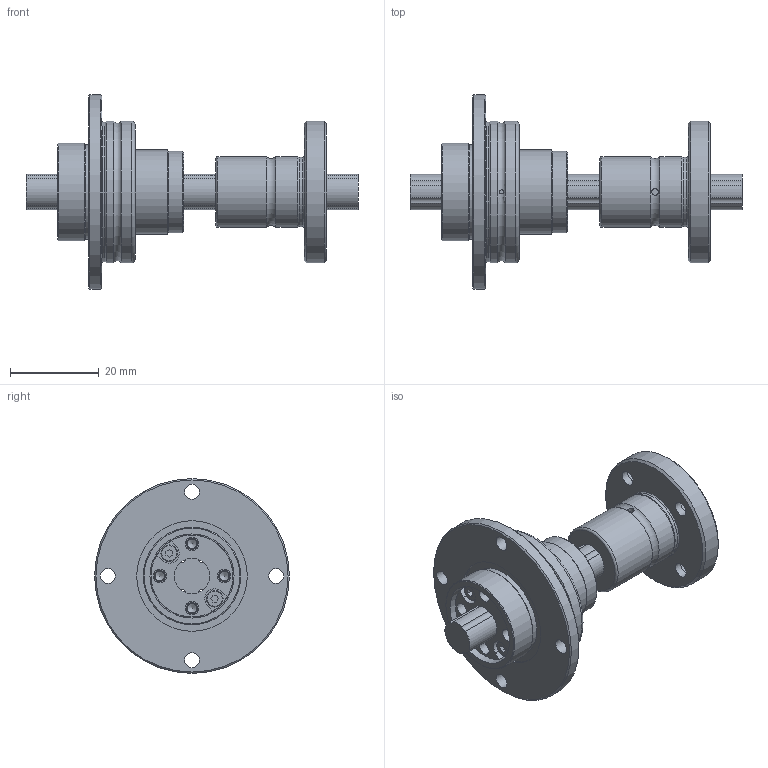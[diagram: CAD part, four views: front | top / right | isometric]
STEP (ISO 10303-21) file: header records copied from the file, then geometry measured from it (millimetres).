
FILE_DESCRIPTION(/* description */ ('STEP AP203'),/* implementation_level */ '2;1');
FILE_NAME(/* name */ 'NS0812A+75L',/* time_stamp */ '2025-06-11T08:45:21+02:00',/* author */ ('License CC BY-ND 4.0'),/* organization */ ('CADENAS'),/* preprocessor_version */ 'ST-DEVELOPER v19.3',/* originating_system */ 'PARTsolutions',/* authorisation */ ' ');
FILE_SCHEMA (('CONFIG_CONTROL_DESIGN'));
Length unit declared in the file: millimetre
Products named in the file (4): NS0812A+75L; NS 0812A+75L Shaft; NS 0812ASpline_b; NS 0812ASpline
Assembly tree (3 placements, depth 2):
  NS0812A+75L
    NS 0812A+75L Shaft
    NS 0812ASpline_b
    NS 0812ASpline
Bounding box: 75 x 44 x 44 mm (x, y, z)
Volume: 23777.7 mm3; surface area: 12801.6 mm2
Topology: 3 solids, 3 shells, 130 faces, 277 edges, 176 vertices
Faces by surface type: cylinder 54, plane 48, cone 17, torus 11
Full cylindrical faces by diameter (mm): 0.9 x1, 1.5 x2, 2.113 x4, 3 x4, 3.4 x8, 3.8 x2, 6.5 x4, 8 x2, 15.7 x1, 16 x2, 18.5 x2, 19 x2, 21.3 x1, 22 x2, 25 x2, 31.6 x1, 32 x3, 44 x1
Entity records: 3200 total; most frequent: DIRECTION 580, CARTESIAN_POINT 518, ORIENTED_EDGE 378, AXIS2_PLACEMENT_3D 260, FACE_BOUND 250, EDGE_LOOP 246, EDGE_CURVE 189, VERTEX_POINT 165
